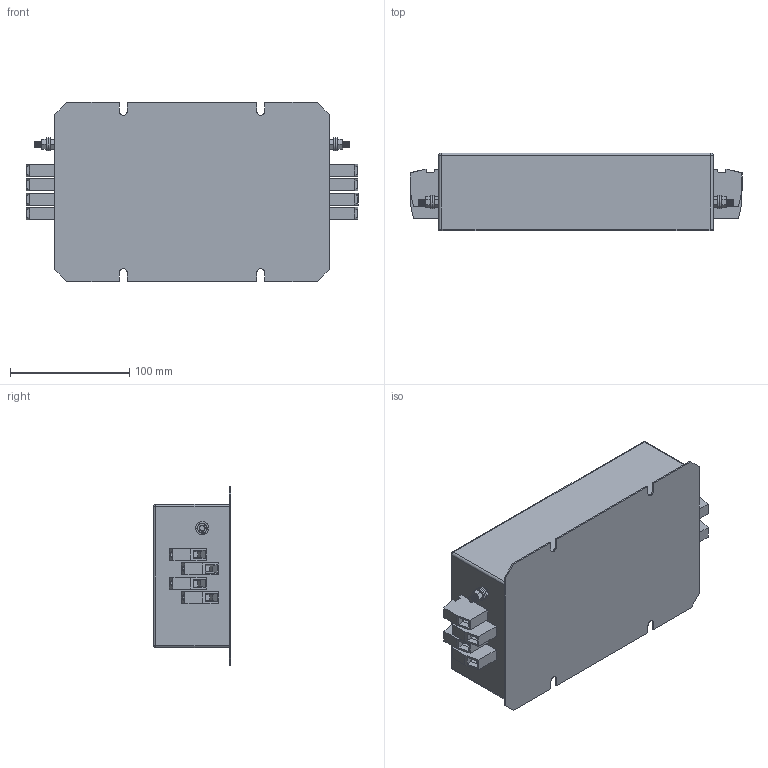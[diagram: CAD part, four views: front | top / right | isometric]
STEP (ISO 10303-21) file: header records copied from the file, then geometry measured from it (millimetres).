
FILE_DESCRIPTION (( 'STEP AP203' ), '1' );
FILE_NAME ('NF-4-64-PPR.STEP', '2022-04-20T16:03:12', ( '' ), ( '' ), 'SwSTEP 2.0', 'SolidWorks 2017', '' );
FILE_SCHEMA (( 'CONFIG_CONTROL_DESIGN' ));
Length unit declared in the file: millimetre
Products named in the file (7): hex screw_am_B18.6.7M - M5 x 0.8 x 13 Indented HHMS --13S; NF, Nf-H a; HDFK-10; flat washer narrow_am_B18.22M - Plain washer, 5 mm, narrow; hex nut style 1_am_B18.2.4.1M - Hex nut, Style 1,  M5 x 0.8 --D-N; NF-4-64-PPR; M5x20 Earth post
Assembly tree (16 placements, depth 3):
  NF-4-64-PPR
    NF, Nf-H a
    HDFK-10  x8
    hex nut style 1_am_B18.2.4.1M - Hex nut, Style 1,  M5 x 0.8 --D-N
    M5x20 Earth post  x2
      flat washer narrow_am_B18.22M - Plain washer, 5 mm, narrow
      hex nut style 1_am_B18.2.4.1M - Hex nut, Style 1,  M5 x 0.8 --D-N
      hex screw_am_B18.6.7M - M5 x 0.8 x 13 Indented HHMS --13S
Bounding box: 278.01 x 65 x 150 mm (x, y, z)
Volume: 1839391.6 mm3; surface area: 211831.5 mm2
Topology: 27 solids, 27 shells, 800 faces, 1880 edges, 1182 vertices
Faces by surface type: plane 432, cone 192, cylinder 172, sphere 4
Entity records: 8769 total; most frequent: CARTESIAN_POINT 1462, DIRECTION 1420, ORIENTED_EDGE 1264, EDGE_CURVE 632, AXIS2_PLACEMENT_3D 546, VERTEX_POINT 396, VECTOR 328, LINE 328
